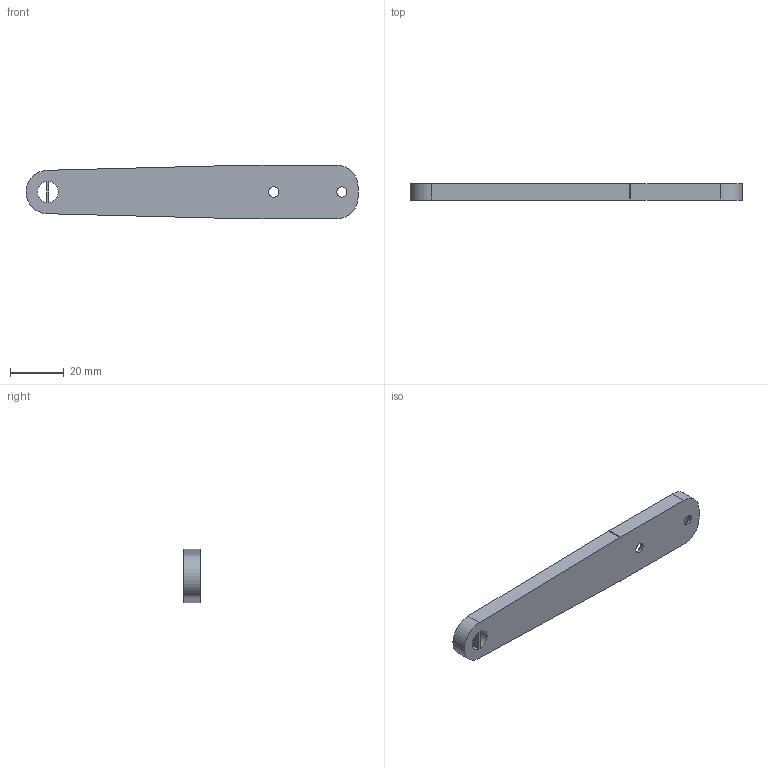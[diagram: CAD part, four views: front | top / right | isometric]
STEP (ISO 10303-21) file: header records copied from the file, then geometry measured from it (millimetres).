
FILE_DESCRIPTION(('STEP AP242 Edition 2','STEP AP242 Edition 2''CAx-IF Rec.Pracs.---Representation and Presentation of Product Manufacturing Information (PMI)---4.0---2014-10-13','STEP AP242 Edition 2''CAx-IF Rec.Pracs.---Representation and Presentation of Product Manufacturing Information (PMI)---4.0---2014-10-13''CAx-IF Rec.Pracs.---3D Tessellated Geometry---0.4---2014-09-14','STEP AP242 Edition 2''CAx-IF Rec.Pracs.---Representation and Presentation of Product Manufacturing Information (PMI)---4.0---2014-10-13''CAx-IF Rec.Pracs.---3D Tessellated Geometry---0.4---2014-09-14''2;1','STEP AP242 Edition 2''CAx-IF Rec.Pracs.---Representation and Presentation of Product Manufacturing Information (PMI)---4.0---2014-10-13''CAx-IF Rec.Pracs.---3D Tessellated Geometry---0.4---2014-09-14''2;1''CAx-IF Rec.Pracs.---User Defined Attributes---1.5---2016-08-15'),'2;1');
FILE_NAME('/vol/tmp/translate-18163883234089008730/bigPotConnector - potInterface.step','2026-03-05T22:40:38',(''),(''),'ST-DEVELOPER v20','ONSHAPE BY PTC INC, 1.211',' ');
FILE_SCHEMA(('AP242_MANAGED_MODEL_BASED_3D_ENGINEERING_MIM_LF { 1 0 10303 442 3 1 4 }'));
Length unit declared in the file: metre
Products named in the file (1): potInterface
Bounding box: 123.7 x 6 x 20 mm (x, y, z)
Volume: 7039 mm3; surface area: 6919.3 mm2
Topology: 1 solids, 1 shells, 42 faces, 110 edges, 70 vertices
Faces by surface type: cylinder 20, plane 15, torus 5, cone 2
Full cylindrical faces by diameter (mm): 3.8 x2
Entity records: 1377 total; most frequent: CARTESIAN_POINT 244, DIRECTION 232, ORIENTED_EDGE 206, EDGE_CURVE 103, AXIS2_PLACEMENT_3D 88, VERTEX_POINT 67, LINE 56, VECTOR 56
